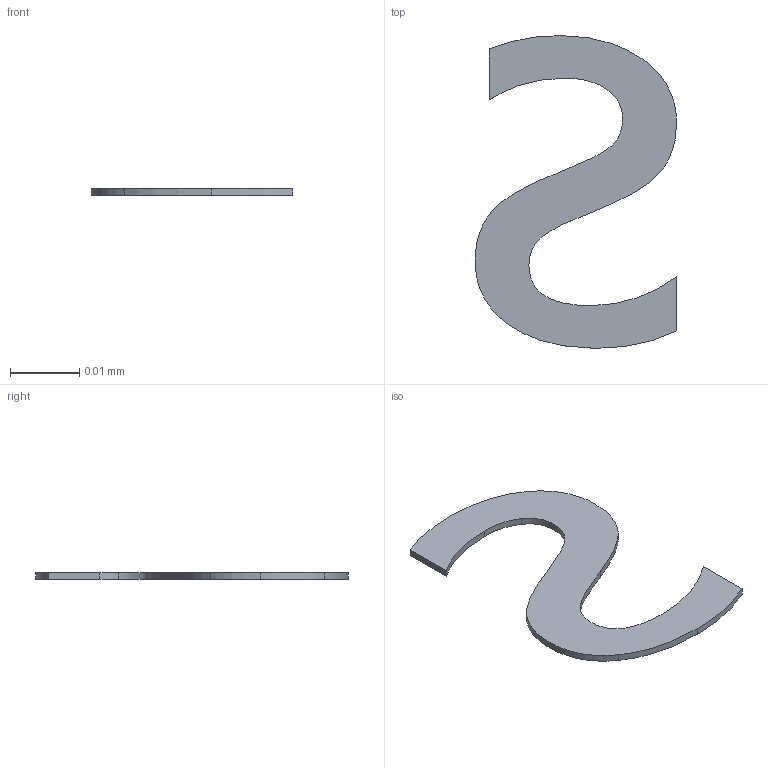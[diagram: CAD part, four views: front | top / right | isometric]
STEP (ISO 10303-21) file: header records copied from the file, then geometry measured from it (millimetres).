
FILE_DESCRIPTION(/* description */ ('STEP AP242 Edition 2','CAx-IF Rec.Pracs.---Representation and Presentation of Product Manufacturing Information (PMI)---4.0---2014-10-13','CAx-IF Rec.Pracs.---3D Tessellated Geometry---0.4---2014-09-14','2;1','CAx-IF Rec.Pracs.---User Defined Attributes---1.5---2016-08-15'),/* implementation_level */ '2;1');
FILE_NAME(/* name */ 'Assembly 1 - SOT-23-6_L2.9-W1.6-P0.95-LS2.8-BL~SOT-23-6_L2.9-W1.6-H1.5-LS2.8-P0.95~nxQB (6)',/* time_stamp */ '2026-04-02T09:55:25Z',/* author */ (''),/* organization */ (''),/* preprocessor_version */ 'ST-DEVELOPER v20',/* originating_system */ 'ONSHAPE BY PTC INC, 1.212',/* authorisation */ ' ');
FILE_SCHEMA (('AP242_MANAGED_MODEL_BASED_3D_ENGINEERING_MIM_LF { 1 0 10303 442 3 1 4 }'));
Length unit declared in the file: metre
Products named in the file (1): SOT-23-6_L2.9-W1.6-P0.95-LS2.8-BL~SOT-23-6_L2.9-W1.6-H1.5-LS2.8-P0.95
~nxQB
Bounding box: 0.03 x 0.05 x 0 mm (x, y, z)
Volume: 0 mm3; surface area: 0 mm2
Topology: 1 solids, 1 shells, 23 faces, 63 edges, 42 vertices
Faces by surface type: bspline 19, plane 4
Entity records: 1015 total; most frequent: CARTESIAN_POINT 370, ORIENTED_EDGE 126, EDGE_CURVE 63, VERTEX_POINT 42, DIRECTION 39, B_SPLINE_CURVE_WITH_KNOTS 36, LINE 25, VECTOR 25
